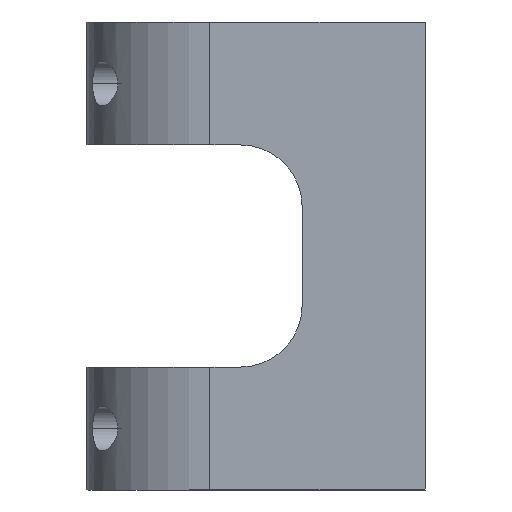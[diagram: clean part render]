
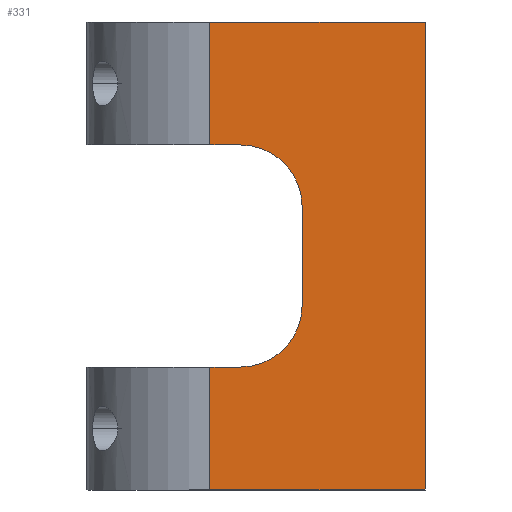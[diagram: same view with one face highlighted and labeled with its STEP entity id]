
A CAD part, left-side view. The second image highlights one B-rep face of the part: STEP entity #331.
In plain terms, the highlighted planar face has unit normal (-1, 0, 0).
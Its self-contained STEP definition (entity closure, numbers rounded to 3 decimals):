
#331=ADVANCED_FACE('',(#685),#3465,.T.);
#685=FACE_OUTER_BOUND('',#1069,.F.);
#1069=EDGE_LOOP('',(#1515,#1516,#1517,#1518,#1519,#1520,#1521,#1522,#1523,
#1524));
#1515=ORIENTED_EDGE('',*,*,#5651,.F.);
#1516=ORIENTED_EDGE('',*,*,#5647,.T.);
#1517=ORIENTED_EDGE('',*,*,#5650,.T.);
#1518=ORIENTED_EDGE('',*,*,#5529,.F.);
#1519=ORIENTED_EDGE('',*,*,#5574,.T.);
#1520=ORIENTED_EDGE('',*,*,#5568,.T.);
#1521=ORIENTED_EDGE('',*,*,#5579,.T.);
#1522=ORIENTED_EDGE('',*,*,#5570,.T.);
#1523=ORIENTED_EDGE('',*,*,#5575,.T.);
#1524=ORIENTED_EDGE('',*,*,#5643,.F.);
#3465=PLANE('',#9069);
#5392=CIRCLE('',#9007,10.);
#5394=CIRCLE('',#9009,10.);
#5529=EDGE_CURVE('',#8851,#8850,#6543,.T.);
#5568=EDGE_CURVE('',#8809,#8808,#5392,.T.);
#5570=EDGE_CURVE('',#8805,#8804,#5394,.T.);
#5574=EDGE_CURVE('',#8851,#8809,#6564,.T.);
#5575=EDGE_CURVE('',#8804,#8810,#6565,.T.);
#5579=EDGE_CURVE('',#8808,#8805,#6569,.T.);
#5643=EDGE_CURVE('',#8740,#8810,#6593,.T.);
#5647=EDGE_CURVE('',#8747,#8739,#6597,.T.);
#5650=EDGE_CURVE('',#8739,#8850,#6600,.T.);
#5651=EDGE_CURVE('',#8747,#8740,#6601,.T.);
#6543=LINE('',#11936,#7473);
#6564=LINE('',#11981,#7494);
#6565=LINE('',#11982,#7495);
#6569=LINE('',#11986,#7499);
#6593=LINE('',#12190,#7523);
#6597=LINE('',#12194,#7527);
#6600=LINE('',#12197,#7530);
#6601=LINE('',#12198,#7531);
#7473=VECTOR('',#9504,20.);
#7494=VECTOR('',#9573,5.);
#7495=VECTOR('',#9574,5.);
#7499=VECTOR('',#9578,16.1);
#7523=VECTOR('',#9666,20.);
#7527=VECTOR('',#9670,76.1);
#7530=VECTOR('',#9673,35.);
#7531=VECTOR('',#9674,35.);
#8739=VERTEX_POINT('',#11636);
#8740=VERTEX_POINT('',#11637);
#8747=VERTEX_POINT('',#11644);
#8804=VERTEX_POINT('',#11701);
#8805=VERTEX_POINT('',#11702);
#8808=VERTEX_POINT('',#11705);
#8809=VERTEX_POINT('',#11706);
#8810=VERTEX_POINT('',#11707);
#8850=VERTEX_POINT('',#11747);
#8851=VERTEX_POINT('',#11748);
#9007=AXIS2_PLACEMENT_3D('',#11975,#9563,#9564);
#9009=AXIS2_PLACEMENT_3D('',#11977,#9567,#9568);
#9069=AXIS2_PLACEMENT_3D('',#13015,#10517,#10518);
#9504=DIRECTION('',(0.,0.,-1.));
#9563=DIRECTION('',(-1.,0.,0.));
#9564=DIRECTION('',(0.,0.,-1.));
#9567=DIRECTION('',(-1.,0.,0.));
#9568=DIRECTION('',(0.,-1.,0.));
#9573=DIRECTION('',(0.,-1.,0.));
#9574=DIRECTION('',(0.,1.,0.));
#9578=DIRECTION('',(0.,0.,1.));
#9666=DIRECTION('',(0.,0.,-1.));
#9670=DIRECTION('',(0.,0.,-1.));
#9673=DIRECTION('',(0.,1.,0.));
#9674=DIRECTION('',(0.,1.,0.));
#10517=DIRECTION('',(-1.,0.,0.));
#10518=DIRECTION('',(0.,0.,-1.));
#11636=CARTESIAN_POINT('',(-75.95,0.,-38.05));
#11637=CARTESIAN_POINT('',(-75.95,35.,38.05));
#11644=CARTESIAN_POINT('',(-75.95,0.,38.05));
#11701=CARTESIAN_POINT('',(-75.95,30.,18.05));
#11702=CARTESIAN_POINT('',(-75.95,20.,8.05));
#11705=CARTESIAN_POINT('',(-75.95,20.,-8.05));
#11706=CARTESIAN_POINT('',(-75.95,30.,-18.05));
#11707=CARTESIAN_POINT('',(-75.95,35.,18.05));
#11747=CARTESIAN_POINT('',(-75.95,35.,-38.05));
#11748=CARTESIAN_POINT('',(-75.95,35.,-18.05));
#11936=CARTESIAN_POINT('',(-75.95,35.,-18.05));
#11975=CARTESIAN_POINT('',(-75.95,30.,-8.05));
#11977=CARTESIAN_POINT('',(-75.95,30.,8.05));
#11981=CARTESIAN_POINT('',(-75.95,35.,-18.05));
#11982=CARTESIAN_POINT('',(-75.95,30.,18.05));
#11986=CARTESIAN_POINT('',(-75.95,20.,-8.05));
#12190=CARTESIAN_POINT('',(-75.95,35.,38.05));
#12194=CARTESIAN_POINT('',(-75.95,0.,38.05));
#12197=CARTESIAN_POINT('',(-75.95,0.,-38.05));
#12198=CARTESIAN_POINT('',(-75.95,0.,38.05));
#13015=CARTESIAN_POINT('',(-75.95,55.761,38.811));
